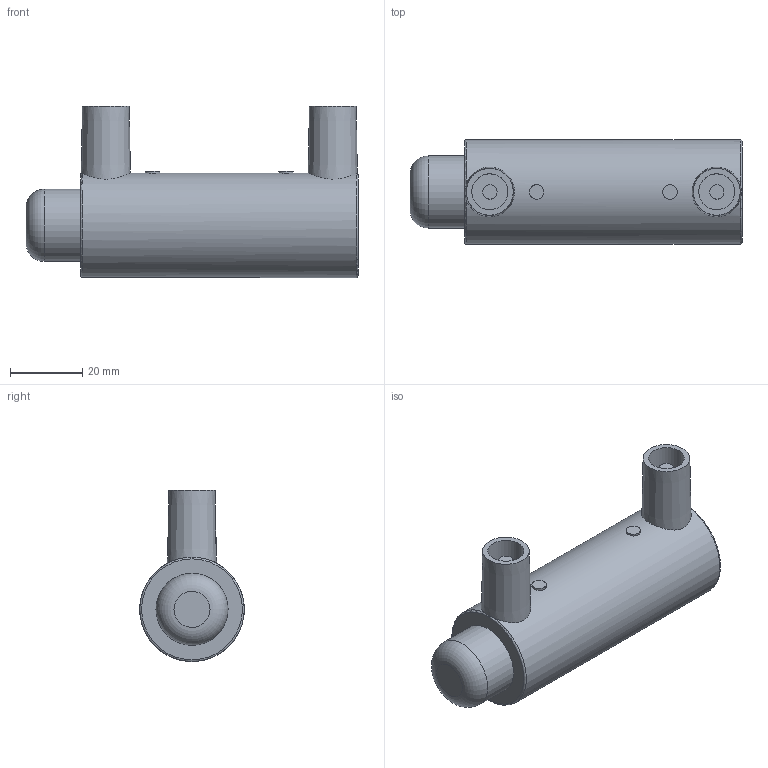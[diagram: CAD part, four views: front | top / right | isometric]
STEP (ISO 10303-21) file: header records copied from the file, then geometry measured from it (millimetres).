
FILE_DESCRIPTION(/* description */ ('Unknown'),/* implementation_level */ '2;1');
FILE_NAME(/* name */ 'CAEP020C',/* time_stamp */ '2021-02-11T10:00:44+01:00',/* author */ ('Unknown'),/* organization */ ('Unknown'),/* preprocessor_version */ 'ST-DEVELOPER v16.7',/* originating_system */ 'Solid Edge',/* authorisation */ 'Unknown');
FILE_SCHEMA (('AUTOMOTIVE_DESIGN {1 0 10303 214 3 1 1}'));
Length unit declared in the file: millimetre
Products named in the file (3): CAEP020C; MP020C; CAP020C
Assembly tree (2 placements, depth 2):
  CAEP020C
    MP020C
    CAP020C
Bounding box: 92.15 x 28.95 x 47.5 mm (x, y, z)
Volume: 38322.9 mm3; surface area: 21499.6 mm2
Topology: 2 solids, 2 shells, 44 faces, 94 edges, 62 vertices
Faces by surface type: plane 23, cylinder 14, torus 4, cone 3
Full cylindrical faces by diameter (mm): 4 x4, 10 x2, 14 x1, 20 x2, 29 x1
Entity records: 1159 total; most frequent: CARTESIAN_POINT 231, DIRECTION 192, ORIENTED_EDGE 134, AXIS2_PLACEMENT_3D 84, EDGE_LOOP 72, FACE_BOUND 72, EDGE_CURVE 67, VERTEX_POINT 53
